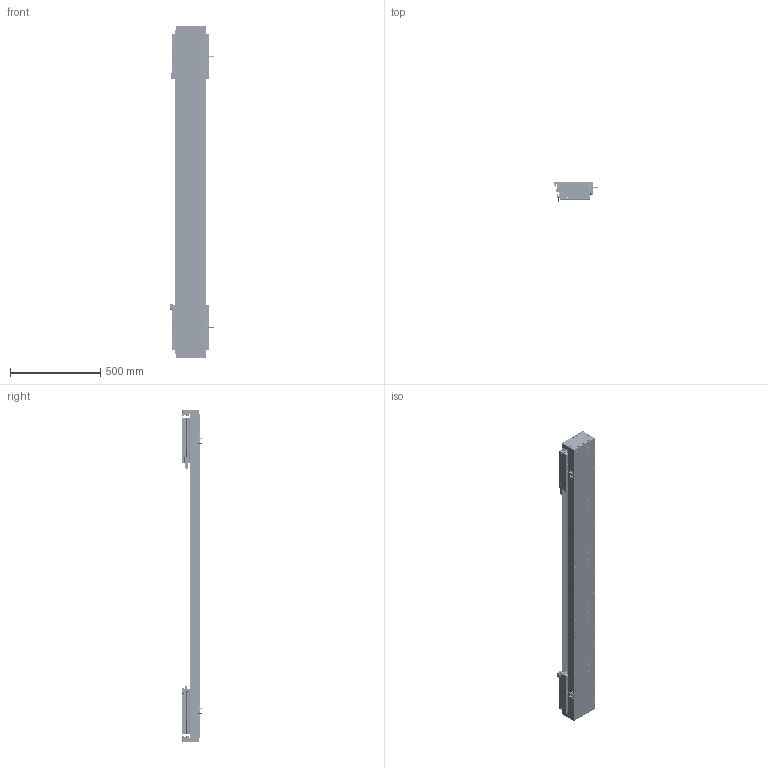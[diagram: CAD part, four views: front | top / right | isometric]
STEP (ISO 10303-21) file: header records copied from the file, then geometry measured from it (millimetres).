
FILE_DESCRIPTION (( 'STEP AP203' ), '1' );
FILE_NAME ('DA-C165-2-C3-T1220-C010-0.2 直线电机.STEP', '2023-06-13T09:25:35', ( '微软用户' ), ( '微软中国' ), 'SwSTEP 2.0', 'SolidWorks 2019', '' );
FILE_SCHEMA (( 'CONFIG_CONTROL_DESIGN' ));
Length unit declared in the file: millimetre
Products named in the file (22): 葩璃 PM-T45^DA-C165-C3-T-C010-0.2-N 眻盄萇儂; 葩璃 CKM03-W075-C1C2-TP-3.0^DA-C165-C3-T-C010-0.2-N 眻盄萇儂; IU-CU165-L 菁釱絳寢; 葩璃 CKM01-W075-TRL^DA-C165-C3-T-C010-0.2-N 眻盄萇儂; 复件 DA165-GD-DG-H-00 端盖^复件 CU165钢带组件_DA-C165-C3-T-C010-0.2-N 直线电机; 复件 DA95-HXJ-00 缓冲橡胶^DA-C165-C3-T-C010-0.2-N 直线电机; 复件 DA126-GYP-ZJ-00 中间光电感应片^DA-C165-C3-T-C010-0.2-N 直线电机; 复件 DA165-GYP-00 光电感应片^DA-C165-C3-T-C010-0.2-N 直线电机; 复件 DKW-HXJ-JY-00 缓冲橡胶^DA-C165-C3-T-C010-0.2-N 直线电机; 复件 CU165 底座^IU-CU165-L 底座导轨_L1800; 珨极趙賑雄怢啣C3-wf; 复件 DA165-GDLK-00 钢带拉块^复件 CU165钢带组件_DA-C165-C3-T-C010-0.2-N 直线电机; 复件 六角薄螺母 M3^DA-C165-C3-T-C010-0.2-N 直线电机_GB_FASTENER_NUT_STNAB M3-C; 复件 DA165-GDYK-00 钢带压块^复件 CU165钢带组件_DA-C165-C3-T-C010-0.2-N 直线电机; 复件 XD-U-02L 磁栅尺^DA-C165-C3-T-C010-0.2-N 直线电机_T; 复件 DA165-GD-1860-002-00 钢带盖板^复件 CU165钢带组件_DA-C165-C3-T-C010-0.2-N 直线电机; 复件 DMA-010-0.2 读数头^DA-C165-C3-T-C010-0.2-N 直线电机; 葩璃 DA95-GT-T-00^IU-CU165-L 菁釱絳寢_T; 复件 66338-1000-006-00 光电感应块^DA-C165-C3-T-C010-0.2-N 直线电机; DA-C165-2-C3-T1220-C010-0.2 眻盄萇儂; 复件 CU165钢带组件^DA-C165-C3-T-C010-0.2-N 直线电机; 葩璃 PM-Y45^DA-C165-C3-T-C010-0.2-N 眻盄萇儂
Assembly tree (45 placements, depth 3):
  DA-C165-2-C3-T1220-C010-0.2 眻盄萇儂
    IU-CU165-L 菁釱絳寢
      复件 CU165 底座^IU-CU165-L 底座导轨_L1800
      葩璃 DA95-GT-T-00^IU-CU165-L 菁釱絳寢_T  x4
    复件 XD-U-02L 磁栅尺^DA-C165-C3-T-C010-0.2-N 直线电机_T
    葩璃 PM-T45^DA-C165-C3-T-C010-0.2-N 眻盄萇儂  x4
    葩璃 CKM01-W075-TRL^DA-C165-C3-T-C010-0.2-N 眻盄萇儂
    复件 CU165钢带组件^DA-C165-C3-T-C010-0.2-N 直线电机
      复件 DA165-GD-DG-H-00 端盖^复件 CU165钢带组件_DA-C165-C3-T-C010-0.2-N 直线电机  x2
      复件 DA165-GDYK-00 钢带压块^复件 CU165钢带组件_DA-C165-C3-T-C010-0.2-N 直线电机  x2
      复件 DA165-GD-1860-002-00 钢带盖板^复件 CU165钢带组件_DA-C165-C3-T-C010-0.2-N 直线电机
      复件 DA165-GDLK-00 钢带拉块^复件 CU165钢带组件_DA-C165-C3-T-C010-0.2-N 直线电机  x2
    复件 DA95-HXJ-00 缓冲橡胶^DA-C165-C3-T-C010-0.2-N 直线电机  x4
    复件 DMA-010-0.2 读数头^DA-C165-C3-T-C010-0.2-N 直线电机  x2
    复件 DA165-GYP-00 光电感应片^DA-C165-C3-T-C010-0.2-N 直线电机  x2
    复件 66338-1000-006-00 光电感应块^DA-C165-C3-T-C010-0.2-N 直线电机
    葩璃 PM-Y45^DA-C165-C3-T-C010-0.2-N 眻盄萇儂
    复件 DA126-GYP-ZJ-00 中间光电感应片^DA-C165-C3-T-C010-0.2-N 直线电机
    葩璃 CKM03-W075-C1C2-TP-3.0^DA-C165-C3-T-C010-0.2-N 眻盄萇儂  x2
    复件 DKW-HXJ-JY-00 缓冲橡胶^DA-C165-C3-T-C010-0.2-N 直线电机  x2
    复件 六角薄螺母 M3^DA-C165-C3-T-C010-0.2-N 直线电机_GB_FASTENER_NUT_STNAB M3-C  x8
    珨极趙賑雄怢啣C3-wf  x2
Bounding box: 247.2 x 111.45 x 1840 mm (x, y, z)
Volume: 13523983.5 mm3; surface area: 3657313.5 mm2
Topology: 121 solids, 221 shells, 6161 faces, 16390 edges, 10122 vertices
Faces by surface type: cylinder 3102, plane 1991, cone 980, torus 80, sphere 8
Entity records: 128052 total; most frequent: CARTESIAN_POINT 32105, DIRECTION 19528, ORIENTED_EDGE 19364, EDGE_CURVE 9682, AXIS2_PLACEMENT_3D 7415, VERTEX_POINT 6276, VECTOR 4698, LINE 4698
